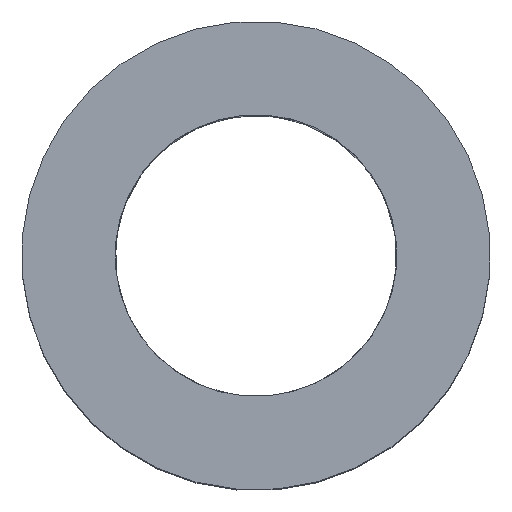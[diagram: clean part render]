
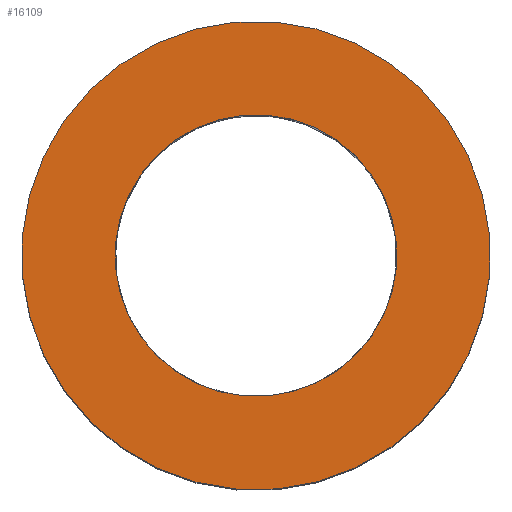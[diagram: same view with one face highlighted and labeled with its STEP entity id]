
A CAD part, top view. The second image highlights one B-rep face of the part: STEP entity #16109.
In plain terms, the highlighted planar face has unit normal (0, 0, 1).
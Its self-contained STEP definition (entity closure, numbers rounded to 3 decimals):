
#1355=FACE_BOUND('',#3528,.T.);
#1814=CIRCLE('',#17300,25.85);
#1841=CIRCLE('',#17330,43.);
#2613=FACE_OUTER_BOUND('',#3527,.T.);
#3527=EDGE_LOOP('',(#14045));
#3528=EDGE_LOOP('',(#14046));
#7119=VERTEX_POINT('',#34219);
#7168=VERTEX_POINT('',#34392);
#9428=EDGE_CURVE('',#7119,#7119,#1814,.T.);
#9479=EDGE_CURVE('',#7168,#7168,#1841,.T.);
#14045=ORIENTED_EDGE('',*,*,#9479,.F.);
#14046=ORIENTED_EDGE('',*,*,#9428,.T.);
#14639=PLANE('',#17329);
#16109=ADVANCED_FACE('',(#2613,#1355),#14639,.T.);
#17300=AXIS2_PLACEMENT_3D('',#34221,#20561,#20562);
#17329=AXIS2_PLACEMENT_3D('',#34391,#20620,#20621);
#17330=AXIS2_PLACEMENT_3D('',#34393,#20622,#20623);
#20561=DIRECTION('center_axis',(0.,0.,
-1.));
#20562=DIRECTION('ref_axis',(0.996,-0.084,0.));
#20620=DIRECTION('center_axis',(0.,0.,
1.));
#20621=DIRECTION('ref_axis',(0.996,-0.084,0.));
#20622=DIRECTION('center_axis',(0.,0.,
-1.));
#20623=DIRECTION('ref_axis',(0.996,-0.084,0.));
#34219=CARTESIAN_POINT('',(-2.178,-25.758,60.216));
#34221=CARTESIAN_POINT('Origin',(0.,0.,
60.216));
#34391=CARTESIAN_POINT('Origin',(3.622,42.847,60.216));
#34392=CARTESIAN_POINT('',(-3.622,-42.847,60.216));
#34393=CARTESIAN_POINT('Origin',(0.,0.,
60.216));
